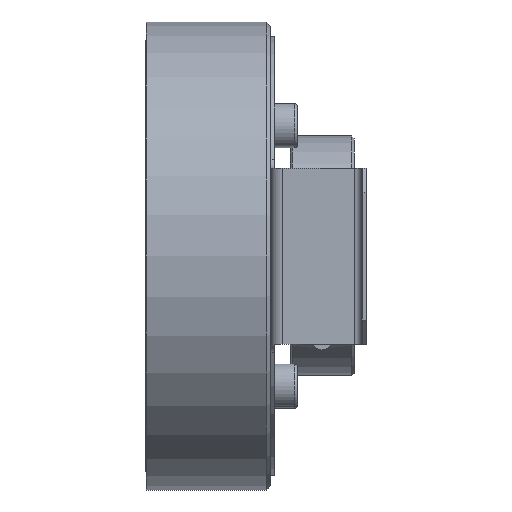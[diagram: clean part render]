
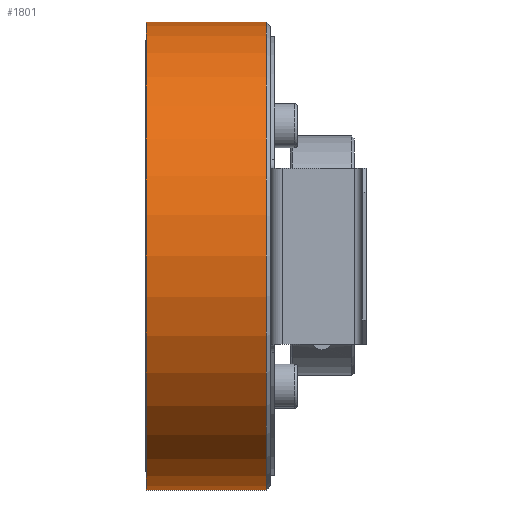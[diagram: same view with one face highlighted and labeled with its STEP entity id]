
A CAD part, left-side view. The second image highlights one B-rep face of the part: STEP entity #1801.
In plain terms, the highlighted cylindrical face has radius 29.25 mm (diameter 58.5 mm), a partial arc.
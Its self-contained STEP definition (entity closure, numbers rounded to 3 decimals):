
#87 = ORIENTED_EDGE ( 'NONE', *, *, #6875, .T. ) ;
#410 = DIRECTION ( 'NONE',  ( 0., 0., 1. ) ) ;
#1021 = AXIS2_PLACEMENT_3D ( 'NONE', #12076, #2779, #1318 ) ;
#1189 = CARTESIAN_POINT ( 'NONE',  ( 0., 15.5, 29.25 ) ) ;
#1318 = DIRECTION ( 'NONE',  ( 0., 0., 1. ) ) ;
#1801 = ADVANCED_FACE ( 'NONE', ( #3158 ), #16942, .T. ) ;
#1809 = AXIS2_PLACEMENT_3D ( 'NONE', #18554, #13799, #2741 ) ;
#2248 = VECTOR ( 'NONE', #8883, 1000. ) ;
#2741 = DIRECTION ( 'NONE',  ( 0., 0., -1. ) ) ;
#2779 = DIRECTION ( 'NONE',  ( 0., 1., 0. ) ) ;
#3158 = FACE_OUTER_BOUND ( 'NONE', #18372, .T. ) ;
#4394 = CARTESIAN_POINT ( 'NONE',  ( 0., 32.8, -29.25 ) ) ;
#4668 = ORIENTED_EDGE ( 'NONE', *, *, #12834, .F. ) ;
#4814 = ORIENTED_EDGE ( 'NONE', *, *, #16130, .T. ) ;
#6465 = EDGE_CURVE ( 'NONE', #14336, #12227, #20161, .T. ) ;
#6875 = EDGE_CURVE ( 'NONE', #14336, #7923, #9043, .T. ) ;
#6904 = ORIENTED_EDGE ( 'NONE', *, *, #6465, .F. ) ;
#7186 = VERTEX_POINT ( 'NONE', #1189 ) ;
#7587 = CARTESIAN_POINT ( 'NONE',  ( 0., 0.5, -29.25 ) ) ;
#7923 = VERTEX_POINT ( 'NONE', #11016 ) ;
#8883 = DIRECTION ( 'NONE',  ( 0., 1., 0. ) ) ;
#9043 = CIRCLE ( 'NONE', #1809, 29.25 ) ;
#9798 = DIRECTION ( 'NONE',  ( 0., 1., 0. ) ) ;
#10750 = CIRCLE ( 'NONE', #12917, 29.25 ) ;
#11016 = CARTESIAN_POINT ( 'NONE',  ( 0., 0.5, 29.25 ) ) ;
#12076 = CARTESIAN_POINT ( 'NONE',  ( 0., 32.8, 0. ) ) ;
#12227 = VERTEX_POINT ( 'NONE', #15186 ) ;
#12712 = CARTESIAN_POINT ( 'NONE',  ( 0., 15.5, 0. ) ) ;
#12834 = EDGE_CURVE ( 'NONE', #12227, #7186, #10750, .T. ) ;
#12917 = AXIS2_PLACEMENT_3D ( 'NONE', #12712, #19205, #410 ) ;
#13402 = VECTOR ( 'NONE', #9798, 1000. ) ;
#13799 = DIRECTION ( 'NONE',  ( 0., 1., 0. ) ) ;
#14336 = VERTEX_POINT ( 'NONE', #7587 ) ;
#15186 = CARTESIAN_POINT ( 'NONE',  ( 0., 15.5, -29.25 ) ) ;
#16112 = CARTESIAN_POINT ( 'NONE',  ( 0., 32.8, 29.25 ) ) ;
#16130 = EDGE_CURVE ( 'NONE', #7923, #7186, #20354, .T. ) ;
#16942 = CYLINDRICAL_SURFACE ( 'NONE', #1021, 29.25 ) ;
#18372 = EDGE_LOOP ( 'NONE', ( #6904, #87, #4814, #4668 ) ) ;
#18554 = CARTESIAN_POINT ( 'NONE',  ( 0., 0.5, 0. ) ) ;
#19205 = DIRECTION ( 'NONE',  ( 0., 1., 0. ) ) ;
#20161 = LINE ( 'NONE', #4394, #2248 ) ;
#20354 = LINE ( 'NONE', #16112, #13402 ) ;
